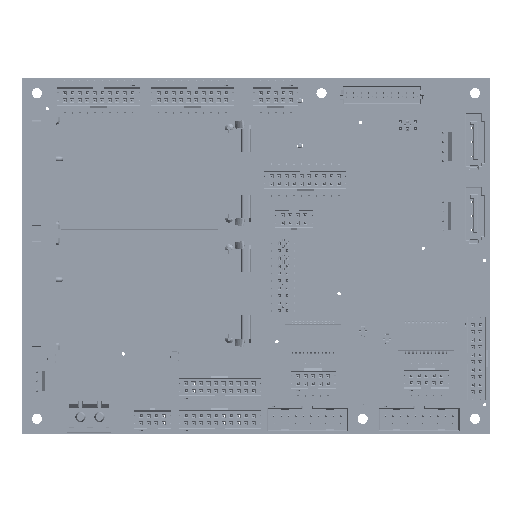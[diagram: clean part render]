
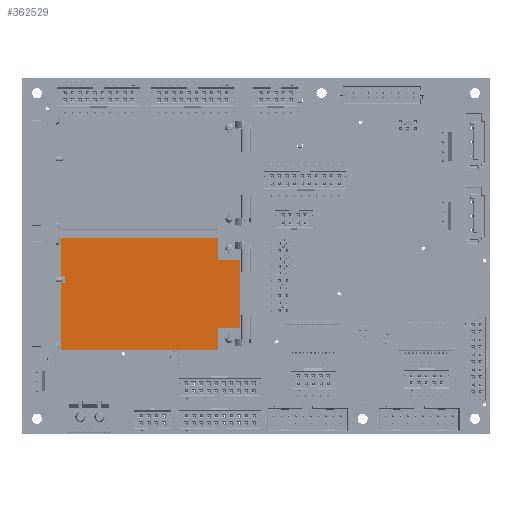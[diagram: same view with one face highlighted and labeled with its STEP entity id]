
A CAD part, top view. The second image highlights one B-rep face of the part: STEP entity #362529.
In plain terms, the highlighted planar face has unit normal (0, 0, 1) as drawn and (0, 1, 0) by its records, which use the part's own axes.
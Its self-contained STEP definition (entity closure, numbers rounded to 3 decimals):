
#609 = ORIENTED_EDGE ( 'NONE', *, *, #278948, .T. ) ;
#12999 = CARTESIAN_POINT ( 'NONE',  ( -4.85, 3.4, 21.275 ) ) ;
#13775 = ORIENTED_EDGE ( 'NONE', *, *, #106514, .T. ) ;
#14432 = ORIENTED_EDGE ( 'NONE', *, *, #380097, .T. ) ;
#20740 = CARTESIAN_POINT ( 'NONE',  ( -9.2, 3.4, -19.675 ) ) ;
#26929 = DIRECTION ( 'NONE',  ( 0., 0., 1. ) ) ;
#27445 = VERTEX_POINT ( 'NONE', #254934 ) ;
#28735 = EDGE_CURVE ( 'NONE', #370298, #283980, #448647, .T. ) ;
#41869 = VECTOR ( 'NONE', #378372, 1000. ) ;
#43467 = CARTESIAN_POINT ( 'NONE',  ( -4.85, 3.4, 22.275 ) ) ;
#46137 = FACE_OUTER_BOUND ( 'NONE', #334612, .T. ) ;
#46824 = EDGE_CURVE ( 'NONE', #283980, #421227, #181126, .T. ) ;
#50940 = EDGE_CURVE ( 'NONE', #370327, #179654, #165779, .T. ) ;
#56363 = CARTESIAN_POINT ( 'NONE',  ( -4.85, 3.4, 22.275 ) ) ;
#57912 = CARTESIAN_POINT ( 'NONE',  ( -2.85, 3.4, 21.275 ) ) ;
#72181 = EDGE_CURVE ( 'NONE', #99561, #370327, #242603, .T. ) ;
#78057 = EDGE_CURVE ( 'NONE', #347817, #364441, #312128, .T. ) ;
#81387 = VECTOR ( 'NONE', #173184, 1000. ) ;
#83345 = PLANE ( 'NONE',  #409597 ) ;
#85435 = CARTESIAN_POINT ( 'NONE',  ( -15., 3.4, 22.275 ) ) ;
#88338 = CARTESIAN_POINT ( 'NONE',  ( 9.2, 3.4, -19.675 ) ) ;
#90551 = LINE ( 'NONE', #376948, #208743 ) ;
#93244 = ORIENTED_EDGE ( 'NONE', *, *, #72181, .T. ) ;
#94011 = EDGE_CURVE ( 'NONE', #149397, #99561, #315627, .T. ) ;
#94678 = ORIENTED_EDGE ( 'NONE', *, *, #46824, .T. ) ;
#97426 = VECTOR ( 'NONE', #414606, 1000. ) ;
#99561 = VERTEX_POINT ( 'NONE', #85435 ) ;
#102463 = VECTOR ( 'NONE', #218405, 1000. ) ;
#102685 = EDGE_CURVE ( 'NONE', #421227, #149397, #103402, .T. ) ;
#103402 = LINE ( 'NONE', #317622, #41869 ) ;
#105076 = VECTOR ( 'NONE', #434090, 1000. ) ;
#106514 = EDGE_CURVE ( 'NONE', #179654, #27445, #310671, .T. ) ;
#106787 = VECTOR ( 'NONE', #351460, 1000. ) ;
#119557 = CARTESIAN_POINT ( 'NONE',  ( 9.2, 3.4, -25.475 ) ) ;
#121878 = LINE ( 'NONE', #156850, #105076 ) ;
#126299 = VECTOR ( 'NONE', #277503, 1000. ) ;
#134723 = VECTOR ( 'NONE', #251778, 1000. ) ;
#135882 = CARTESIAN_POINT ( 'NONE',  ( -4.85, 3.4, 21.275 ) ) ;
#139779 = CARTESIAN_POINT ( 'NONE',  ( 9.2, 3.4, -25.475 ) ) ;
#142237 = ORIENTED_EDGE ( 'NONE', *, *, #50940, .T. ) ;
#144763 = CARTESIAN_POINT ( 'NONE',  ( 15., 3.4, 22.275 ) ) ;
#149397 = VERTEX_POINT ( 'NONE', #154897 ) ;
#152128 = EDGE_CURVE ( 'NONE', #364441, #370298, #154486, .T. ) ;
#153272 = VERTEX_POINT ( 'NONE', #144763 ) ;
#154486 = LINE ( 'NONE', #119557, #327865 ) ;
#154897 = CARTESIAN_POINT ( 'NONE',  ( -15., 3.4, -19.675 ) ) ;
#156850 = CARTESIAN_POINT ( 'NONE',  ( 15., 3.4, 22.275 ) ) ;
#165779 = LINE ( 'NONE', #56363, #126299 ) ;
#173184 = DIRECTION ( 'NONE',  ( 1., 0., 0. ) ) ;
#179654 = VERTEX_POINT ( 'NONE', #12999 ) ;
#181126 = LINE ( 'NONE', #454347, #102463 ) ;
#190485 = DIRECTION ( 'NONE',  ( 0., 0., -1. ) ) ;
#192432 = CARTESIAN_POINT ( 'NONE',  ( 9.2, 3.4, -25.475 ) ) ;
#192798 = DIRECTION ( 'NONE',  ( 0., -1., 0. ) ) ;
#193011 = ORIENTED_EDGE ( 'NONE', *, *, #28735, .T. ) ;
#200430 = CARTESIAN_POINT ( 'NONE',  ( 9.2, 3.4, -19.675 ) ) ;
#208743 = VECTOR ( 'NONE', #374660, 1000. ) ;
#214568 = CARTESIAN_POINT ( 'NONE',  ( -15., 3.4, 22.275 ) ) ;
#218405 = DIRECTION ( 'NONE',  ( 0., 0., 1. ) ) ;
#218560 = LINE ( 'NONE', #57912, #106787 ) ;
#242603 = LINE ( 'NONE', #214568, #134723 ) ;
#243087 = CARTESIAN_POINT ( 'NONE',  ( -9.2, 3.4, -25.475 ) ) ;
#251778 = DIRECTION ( 'NONE',  ( 1., 0., 0. ) ) ;
#252485 = DIRECTION ( 'NONE',  ( 0., 0., -1. ) ) ;
#254934 = CARTESIAN_POINT ( 'NONE',  ( -2.85, 3.4, 21.275 ) ) ;
#277503 = DIRECTION ( 'NONE',  ( 0., 0., -1. ) ) ;
#278948 = EDGE_CURVE ( 'NONE', #27445, #288080, #218560, .T. ) ;
#283980 = VERTEX_POINT ( 'NONE', #243087 ) ;
#288080 = VERTEX_POINT ( 'NONE', #289064 ) ;
#289064 = CARTESIAN_POINT ( 'NONE',  ( -2.85, 3.4, 22.275 ) ) ;
#300154 = CARTESIAN_POINT ( 'NONE',  ( -15., 3.4, -19.675 ) ) ;
#306850 = VECTOR ( 'NONE', #26929, 1000. ) ;
#310671 = LINE ( 'NONE', #135882, #81387 ) ;
#312128 = LINE ( 'NONE', #200430, #97426 ) ;
#315627 = LINE ( 'NONE', #300154, #306850 ) ;
#317622 = CARTESIAN_POINT ( 'NONE',  ( -9.2, 3.4, -19.675 ) ) ;
#327865 = VECTOR ( 'NONE', #252485, 1000. ) ;
#332534 = CARTESIAN_POINT ( 'NONE',  ( -4.85, 3.4, -25.475 ) ) ;
#332701 = ORIENTED_EDGE ( 'NONE', *, *, #340509, .T. ) ;
#334195 = VECTOR ( 'NONE', #426209, 1000. ) ;
#334612 = EDGE_LOOP ( 'NONE', ( #193011, #94678, #436145, #354592, #93244, #142237, #13775, #609, #14432, #332701, #413869, #388047 ) ) ;
#340509 = EDGE_CURVE ( 'NONE', #153272, #347817, #121878, .T. ) ;
#347817 = VERTEX_POINT ( 'NONE', #392310 ) ;
#351460 = DIRECTION ( 'NONE',  ( 0., 0., 1. ) ) ;
#354592 = ORIENTED_EDGE ( 'NONE', *, *, #94011, .T. ) ;
#362529 = ADVANCED_FACE ( 'NONE', ( #46137 ), #83345, .F. ) ;
#364441 = VERTEX_POINT ( 'NONE', #88338 ) ;
#370298 = VERTEX_POINT ( 'NONE', #192432 ) ;
#370327 = VERTEX_POINT ( 'NONE', #43467 ) ;
#374660 = DIRECTION ( 'NONE',  ( 1., 0., 0. ) ) ;
#376948 = CARTESIAN_POINT ( 'NONE',  ( -2.85, 3.4, 22.275 ) ) ;
#378372 = DIRECTION ( 'NONE',  ( -1., 0., 0. ) ) ;
#380097 = EDGE_CURVE ( 'NONE', #288080, #153272, #90551, .T. ) ;
#388047 = ORIENTED_EDGE ( 'NONE', *, *, #152128, .T. ) ;
#392310 = CARTESIAN_POINT ( 'NONE',  ( 15., 3.4, -19.675 ) ) ;
#409597 = AXIS2_PLACEMENT_3D ( 'NONE', #332534, #192798, #190485 ) ;
#413869 = ORIENTED_EDGE ( 'NONE', *, *, #78057, .T. ) ;
#414606 = DIRECTION ( 'NONE',  ( -1., 0., 0. ) ) ;
#421227 = VERTEX_POINT ( 'NONE', #20740 ) ;
#426209 = DIRECTION ( 'NONE',  ( -1., 0., 0. ) ) ;
#434090 = DIRECTION ( 'NONE',  ( 0., 0., -1. ) ) ;
#436145 = ORIENTED_EDGE ( 'NONE', *, *, #102685, .T. ) ;
#448647 = LINE ( 'NONE', #139779, #334195 ) ;
#454347 = CARTESIAN_POINT ( 'NONE',  ( -9.2, 3.4, -25.475 ) ) ;
